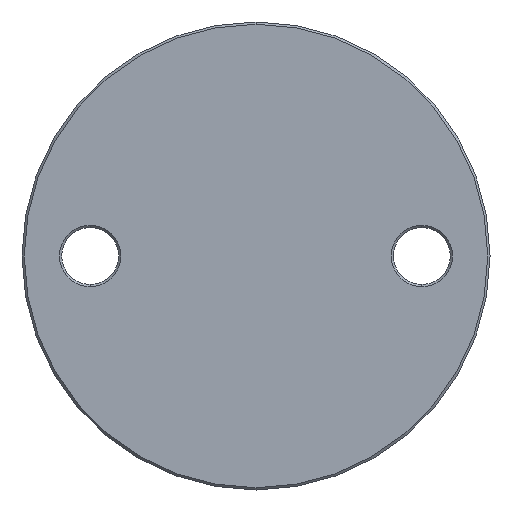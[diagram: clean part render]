
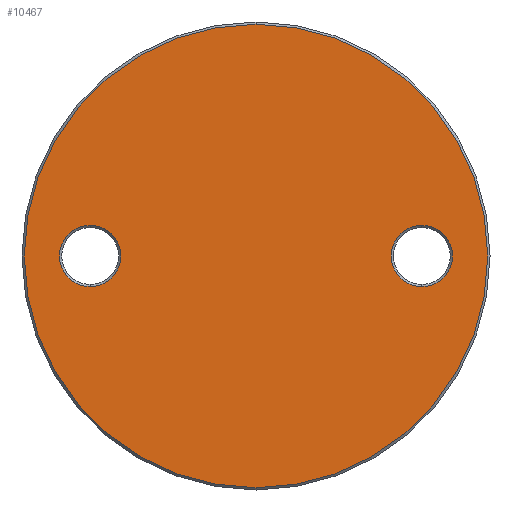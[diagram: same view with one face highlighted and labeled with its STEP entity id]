
A CAD part, front view. The second image highlights one B-rep face of the part: STEP entity #10467.
In plain terms, the highlighted planar face has unit normal (0, -1, 0).
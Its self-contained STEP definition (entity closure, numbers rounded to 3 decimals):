
#555 = EDGE_CURVE ( 'NONE', #2142, #6351, #6473, .T. ) ;
#669 = DIRECTION ( 'NONE',  ( 0., -1., 0. ) ) ;
#1263 = VERTEX_POINT ( 'NONE', #11081 ) ;
#1321 = EDGE_LOOP ( 'NONE', ( #6911, #7048 ) ) ;
#1559 = DIRECTION ( 'NONE',  ( 0., 1., 0. ) ) ;
#1579 = EDGE_CURVE ( 'NONE', #6351, #2142, #3135, .T. ) ;
#1585 = EDGE_LOOP ( 'NONE', ( #10441, #9209 ) ) ;
#1812 = AXIS2_PLACEMENT_3D ( 'NONE', #6815, #1559, #8074 ) ;
#1822 = DIRECTION ( 'NONE',  ( 0., -1., 0. ) ) ;
#2047 = FACE_BOUND ( 'NONE', #7749, .T. ) ;
#2083 = AXIS2_PLACEMENT_3D ( 'NONE', #6474, #669, #2676 ) ;
#2104 = DIRECTION ( 'NONE',  ( 0., 0., -1. ) ) ;
#2117 = EDGE_CURVE ( 'NONE', #3577, #6462, #5350, .T. ) ;
#2142 = VERTEX_POINT ( 'NONE', #9865 ) ;
#2143 = CARTESIAN_POINT ( 'NONE',  ( -36.5, -3., 0. ) ) ;
#2169 = CARTESIAN_POINT ( 'NONE',  ( -36.5, -3., 0. ) ) ;
#2341 = CARTESIAN_POINT ( 'NONE',  ( 36.5, -3., 0. ) ) ;
#2345 = DIRECTION ( 'NONE',  ( 0., 0., -1. ) ) ;
#2463 = CIRCLE ( 'NONE', #2083, 51. ) ;
#2676 = DIRECTION ( 'NONE',  ( 0., 0., -1. ) ) ;
#3135 = CIRCLE ( 'NONE', #1812, 6.75 ) ;
#3188 = DIRECTION ( 'NONE',  ( 0., 1., 0. ) ) ;
#3577 = VERTEX_POINT ( 'NONE', #10570 ) ;
#4513 = PLANE ( 'NONE',  #12883 ) ;
#4595 = FACE_BOUND ( 'NONE', #1585, .T. ) ;
#4826 = DIRECTION ( 'NONE',  ( 0., 0., -1. ) ) ;
#4927 = CARTESIAN_POINT ( 'NONE',  ( 36.5, -3., -6.75 ) ) ;
#5209 = AXIS2_PLACEMENT_3D ( 'NONE', #2143, #9252, #2104 ) ;
#5350 = CIRCLE ( 'NONE', #8725, 51. ) ;
#5487 = CIRCLE ( 'NONE', #12578, 6.75 ) ;
#5722 = AXIS2_PLACEMENT_3D ( 'NONE', #2341, #9444, #4826 ) ;
#6351 = VERTEX_POINT ( 'NONE', #4927 ) ;
#6462 = VERTEX_POINT ( 'NONE', #12276 ) ;
#6473 = CIRCLE ( 'NONE', #5722, 6.75 ) ;
#6474 = CARTESIAN_POINT ( 'NONE',  ( 0., -3., 0. ) ) ;
#6577 = EDGE_CURVE ( 'NONE', #1263, #10528, #5487, .T. ) ;
#6815 = CARTESIAN_POINT ( 'NONE',  ( 36.5, -3., 0. ) ) ;
#6911 = ORIENTED_EDGE ( 'NONE', *, *, #11406, .T. ) ;
#7048 = ORIENTED_EDGE ( 'NONE', *, *, #2117, .T. ) ;
#7749 = EDGE_LOOP ( 'NONE', ( #12191, #11630 ) ) ;
#7934 = CARTESIAN_POINT ( 'NONE',  ( 0., -3., 0. ) ) ;
#7996 = DIRECTION ( 'NONE',  ( 0., -1., 0. ) ) ;
#8074 = DIRECTION ( 'NONE',  ( 0., 0., -1. ) ) ;
#8086 = CARTESIAN_POINT ( 'NONE',  ( -36.5, -3., 6.75 ) ) ;
#8725 = AXIS2_PLACEMENT_3D ( 'NONE', #7934, #1822, #8932 ) ;
#8932 = DIRECTION ( 'NONE',  ( 0., 0., -1. ) ) ;
#9209 = ORIENTED_EDGE ( 'NONE', *, *, #9719, .T. ) ;
#9252 = DIRECTION ( 'NONE',  ( 0., 1., 0. ) ) ;
#9444 = DIRECTION ( 'NONE',  ( 0., 1., 0. ) ) ;
#9630 = CARTESIAN_POINT ( 'NONE',  ( 0., -3., 51.5 ) ) ;
#9719 = EDGE_CURVE ( 'NONE', #10528, #1263, #12552, .T. ) ;
#9865 = CARTESIAN_POINT ( 'NONE',  ( 36.5, -3., 6.75 ) ) ;
#10441 = ORIENTED_EDGE ( 'NONE', *, *, #6577, .T. ) ;
#10467 = ADVANCED_FACE ( 'NONE', ( #2047, #4595, #11905 ), #4513, .T. ) ;
#10528 = VERTEX_POINT ( 'NONE', #8086 ) ;
#10570 = CARTESIAN_POINT ( 'NONE',  ( 0., -3., -51. ) ) ;
#11081 = CARTESIAN_POINT ( 'NONE',  ( -36.5, -3., -6.75 ) ) ;
#11406 = EDGE_CURVE ( 'NONE', #6462, #3577, #2463, .T. ) ;
#11630 = ORIENTED_EDGE ( 'NONE', *, *, #555, .T. ) ;
#11905 = FACE_OUTER_BOUND ( 'NONE', #1321, .T. ) ;
#12191 = ORIENTED_EDGE ( 'NONE', *, *, #1579, .T. ) ;
#12276 = CARTESIAN_POINT ( 'NONE',  ( 0., -3., 51. ) ) ;
#12413 = DIRECTION ( 'NONE',  ( 0., 0., -1. ) ) ;
#12552 = CIRCLE ( 'NONE', #5209, 6.75 ) ;
#12578 = AXIS2_PLACEMENT_3D ( 'NONE', #2169, #3188, #12413 ) ;
#12883 = AXIS2_PLACEMENT_3D ( 'NONE', #9630, #7996, #2345 ) ;
